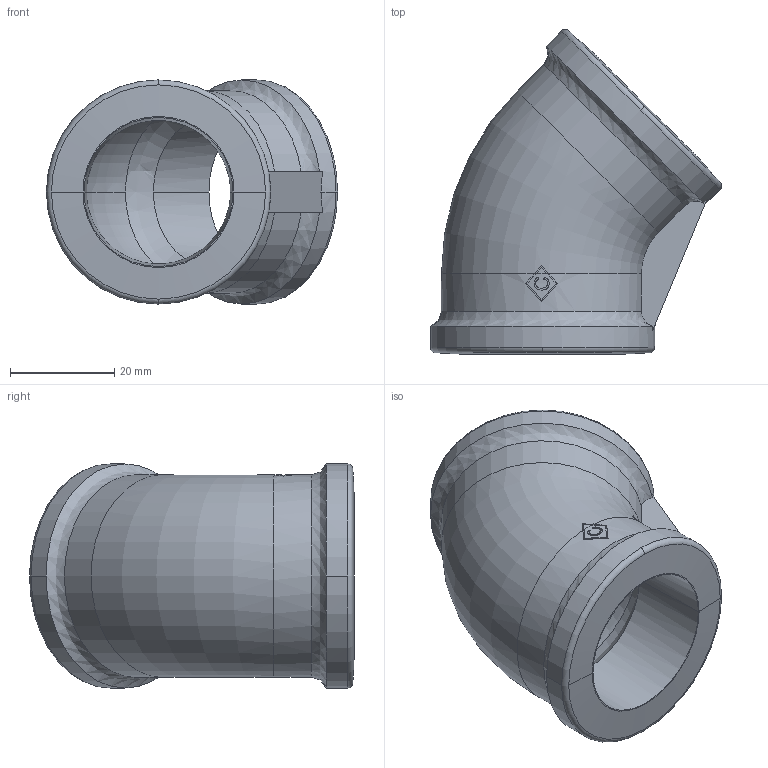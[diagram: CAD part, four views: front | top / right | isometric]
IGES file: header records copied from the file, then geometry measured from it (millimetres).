
Global section: file name: No Iges File Name specified; native system: AutoDesk Inventor R12.0; preprocessor: AutoDesk Inventor Iges Exporter R12.0; date: 20090916.103844; units: millimetre
Bounding box: 55.85 x 62.34 x 43 mm (x, y, z)
Volume: 30171.2 mm3; surface area: 14010.6 mm2
Topology: 1 solids, 1 shells, 53 faces, 166 edges, 116 vertices
Faces by surface type: plane 15, bspline 12, cylinder 9, torus 7, revolution 6, cone 4
